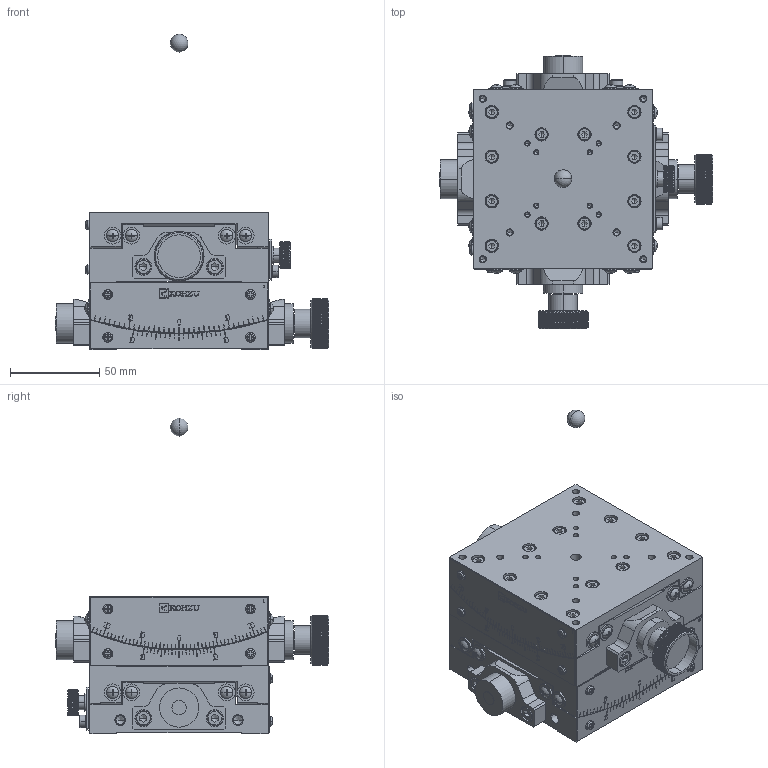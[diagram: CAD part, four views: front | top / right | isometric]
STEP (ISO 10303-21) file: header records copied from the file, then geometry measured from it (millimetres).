
FILE_DESCRIPTION( (''), '2;1');
FILE_NAME ('SH10A-RS.stp','2021-11-19T15:15:15',(''),(''),'spGate 17.5.5','','');
FILE_SCHEMA (('AUTOMOTIVE_DESIGN'));
Length unit declared in the file: millimetre
Products named in the file (5): Assembly; SH10A-RS-prt0; SH10A-RS-prt1; SH10A-RS-prt2; SH10A-RS-prt3
Assembly tree (4 placements, depth 2):
  Assembly
    SH10A-RS-prt0
    SH10A-RS-prt1
    SH10A-RS-prt2
    SH10A-RS-prt3
Bounding box: 153.5 x 153.5 x 177 mm (x, y, z)
Volume: 796704.4 mm3; surface area: 165583.3 mm2
Topology: 4 solids, 16 shells, 4560 faces, 11634 edges, 7226 vertices
Faces by surface type: plane 2742, cylinder 1144, bspline 624, sphere 50
Entity records: 240212 total; most frequent: CARTESIAN_POINT 47586, ORIENTED_EDGE 22820, DIRECTION 18874, COLOUR_RGB 15974, PRESENTATION_STYLE_ASSIGNMENT 15974, STYLED_ITEM 15974, EDGE_CURVE 11410, DRAUGHTING_PRE_DEFINED_CURVE_FONT 11410
